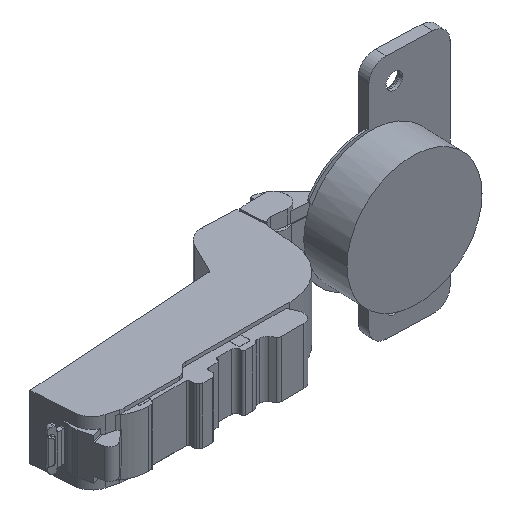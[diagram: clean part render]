
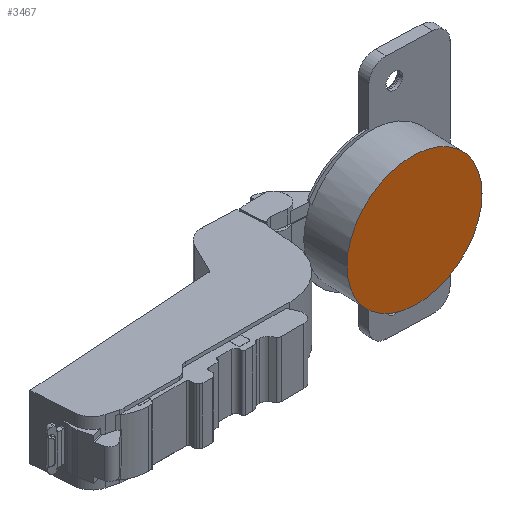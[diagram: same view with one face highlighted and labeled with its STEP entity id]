
A CAD part, isometric view. The second image highlights one B-rep face of the part: STEP entity #3467.
In plain terms, the highlighted planar face has unit normal (-0.036, -0.999, 0).
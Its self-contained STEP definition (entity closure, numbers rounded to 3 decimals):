
#37 = CARTESIAN_POINT ( 'NONE',  ( 78.816, 15.894, 0. ) ) ;
#257 = CARTESIAN_POINT ( 'NONE',  ( 43.938, 17.156, 0. ) ) ;
#311 = EDGE_CURVE ( 'NONE', #9713, #1855, #10310, .T. ) ;
#534 = ORIENTED_EDGE ( 'NONE', *, *, #311, .T. ) ;
#611 = AXIS2_PLACEMENT_3D ( 'NONE', #9594, #4627, #5320 ) ;
#1336 = PLANE ( 'NONE',  #611 ) ;
#1855 = VERTEX_POINT ( 'NONE', #257 ) ;
#2328 = CARTESIAN_POINT ( 'NONE',  ( 61.377, 16.525, 0. ) ) ;
#2358 = CARTESIAN_POINT ( 'NONE',  ( 61.377, 16.525, 0. ) ) ;
#2695 = EDGE_CURVE ( 'NONE', #1855, #9713, #4737, .T. ) ;
#3467 = ADVANCED_FACE ( 'NONE', ( #8734 ), #1336, .T. ) ;
#4627 = DIRECTION ( 'NONE',  ( -0.036, -0.999, 0. ) ) ;
#4737 = CIRCLE ( 'NONE', #9215, 17.45 ) ;
#5294 = AXIS2_PLACEMENT_3D ( 'NONE', #2358, #8997, #8246 ) ;
#5320 = DIRECTION ( 'NONE',  ( 0.999, -0.036, 0. ) ) ;
#5620 = DIRECTION ( 'NONE',  ( 0.999, -0.036, 0. ) ) ;
#6737 = ORIENTED_EDGE ( 'NONE', *, *, #2695, .T. ) ;
#8246 = DIRECTION ( 'NONE',  ( 0.999, -0.036, 0. ) ) ;
#8627 = EDGE_LOOP ( 'NONE', ( #534, #6737 ) ) ;
#8734 = FACE_OUTER_BOUND ( 'NONE', #8627, .T. ) ;
#8997 = DIRECTION ( 'NONE',  ( -0.036, -0.999, 0. ) ) ;
#9215 = AXIS2_PLACEMENT_3D ( 'NONE', #2328, #9564, #5620 ) ;
#9564 = DIRECTION ( 'NONE',  ( -0.036, -0.999, 0. ) ) ;
#9594 = CARTESIAN_POINT ( 'NONE',  ( 61.377, 16.525, 0. ) ) ;
#9713 = VERTEX_POINT ( 'NONE', #37 ) ;
#10310 = CIRCLE ( 'NONE', #5294, 17.45 ) ;
